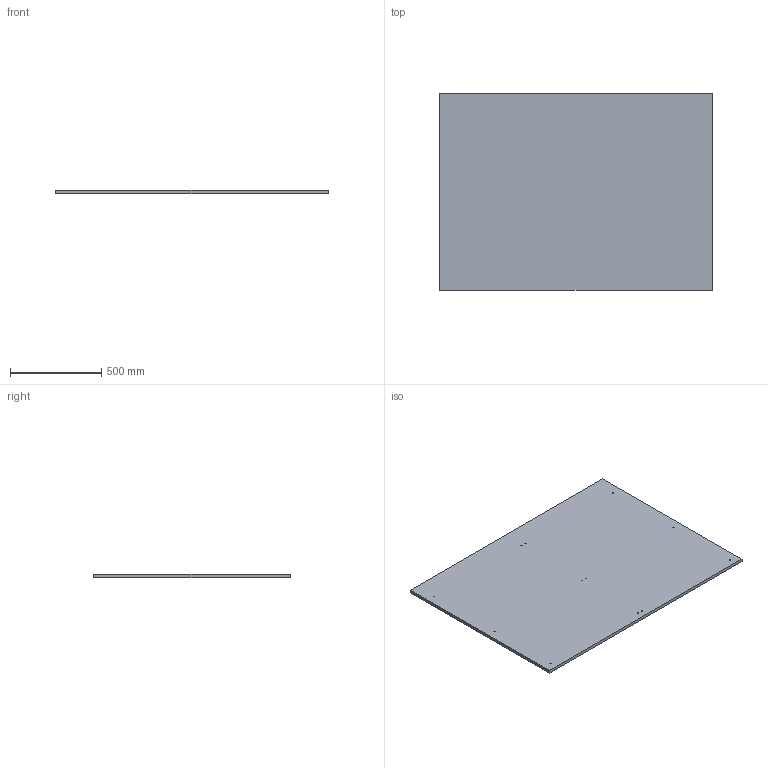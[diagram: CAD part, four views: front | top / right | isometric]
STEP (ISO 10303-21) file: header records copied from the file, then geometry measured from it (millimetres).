
FILE_DESCRIPTION (( 'STEP AP214' ), '1' );
FILE_NAME ('PANTS0039.STEP', '2025-05-15T12:45:17', ( '' ), ( '' ), 'SwSTEP 2.0', 'SolidWorks 2022', '' );
FILE_SCHEMA (( 'AUTOMOTIVE_DESIGN' ));
Length unit declared in the file: millimetre
Products named in the file (1): PANTS0039
Bounding box: 1496 x 1078 x 18 mm (x, y, z)
Volume: 29018121.6 mm3; surface area: 3322425.9 mm2
Topology: 1 solids, 1 shells, 94 faces, 220 edges, 112 vertices
Faces by surface type: cone 56, cylinder 32, plane 6
Entity records: 2454 total; most frequent: DIRECTION 466, CARTESIAN_POINT 395, ORIENTED_EDGE 376, EDGE_CURVE 188, AXIS2_PLACEMENT_3D 183, VERTEX_POINT 112, EDGE_LOOP 110, LINE 100
